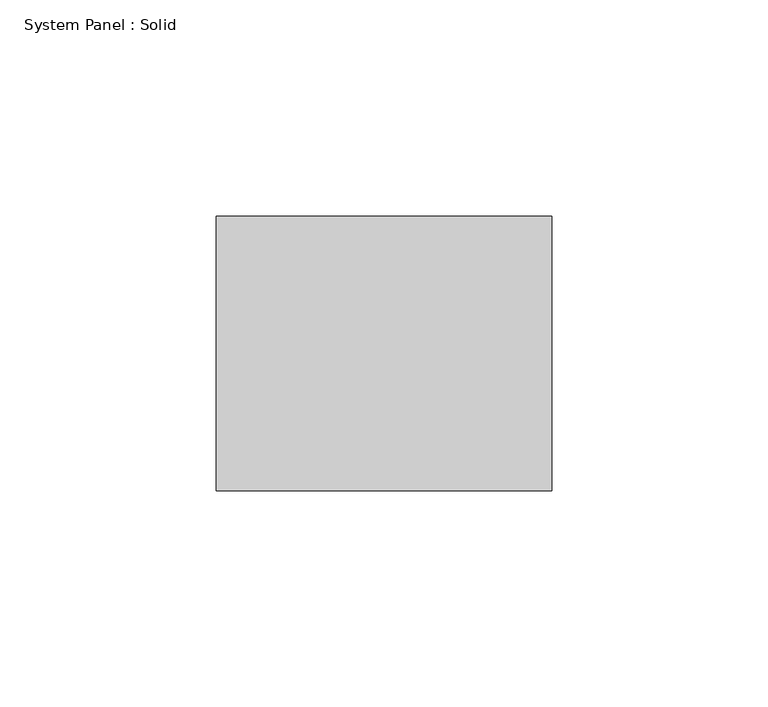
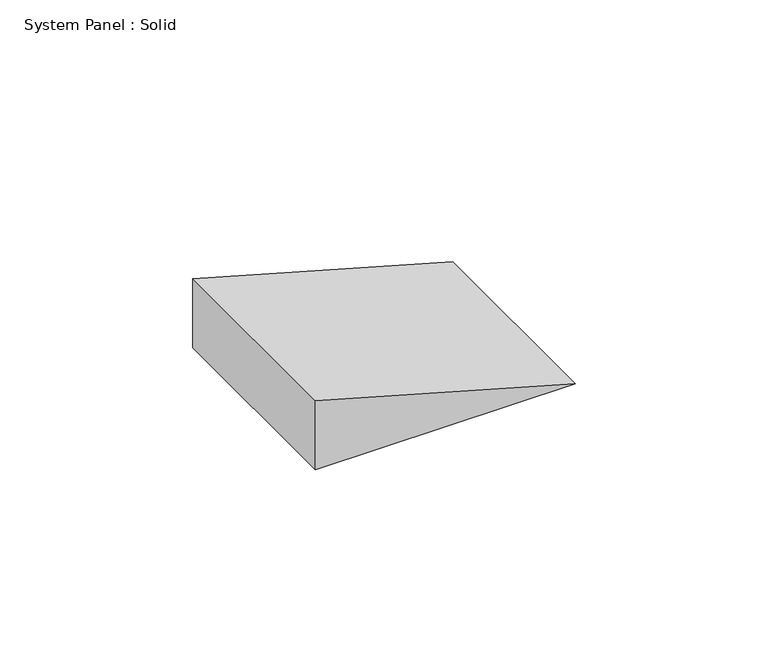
"""IFC4 building model written with IfcOpenShell, lengths in millimetres: plate geometry, System Panel : Solid."""

import ifcopenshell
import ifcopenshell.guid

model = None  # the IFC model being written
_history = None  # IfcOwnerHistory: only IFC2X3 demands one
_inside = {}  # id of a spatial element -> (the spatial element, [elements in it])
_under = {}  # id of a project, library or spatial element -> (it, [spatial elements below it])
_declared = {}  # id of a project -> (the project, [libraries it declares])
_typed = {}  # id of a type object -> (the type object, [elements of that type])
_made_of = {}  # id of a material, layer set ... -> (it, [elements and type objects made of it])


def new_model(schema):
    """Start an empty IFC model of exactly this schema.

    Asked for "IFC4X3", IfcOpenShell would pick the latest addendum, in which some entities
    have other attributes; the version numbers below select the first issue.
    IFC2X3 requires an IfcOwnerHistory on every rooted entity: one is made here for all.
    """
    global model, _history
    if schema == "IFC4X3":
        model = ifcopenshell.file(schema_version=(4, 3, 0, 0))
    else:
        model = ifcopenshell.file(schema=schema)
    _inside.clear()
    _under.clear()
    _declared.clear()
    _typed.clear()
    _made_of.clear()
    _history = None
    if model.schema == "IFC2X3":
        org = make("IfcOrganization", Name="unknown")
        user = make(
            "IfcPersonAndOrganization",
            ThePerson=make("IfcPerson", FamilyName="unknown"),
            TheOrganization=org,
        )
        app = make(
            "IfcApplication",
            ApplicationDeveloper=org,
            Version="unknown",
            ApplicationFullName="unknown",
            ApplicationIdentifier="unknown",
        )
        _history = make(
            "IfcOwnerHistory",
            OwningUser=user,
            OwningApplication=app,
            ChangeAction="ADDED",
            CreationDate=0,
        )
    return model


def make(cls, **values):
    """One entity of the class cls with the attributes given. An attribute that is None is left unset."""
    return model.create_entity(
        cls, **{name: value for name, value in values.items() if value is not None}
    )


def rooted(cls, **values):
    """An entity with a GlobalId (a new one), such as an element, a storey or a relation."""
    return make(cls, GlobalId=ifcopenshell.guid.new(), OwnerHistory=_history, **values)


def si_unit(unit_type, name, prefix=None):
    """IfcSIUnit, for example si_unit("LENGTHUNIT", "METRE", prefix="MILLI")."""
    return make("IfcSIUnit", UnitType=unit_type, Prefix=prefix, Name=name)


def assignment(units):
    """IfcUnitAssignment: the units of a project."""
    return None if units is None else make("IfcUnitAssignment", Units=units)


def point(xyz):
    """IfcCartesianPoint."""
    return None if xyz is None else make("IfcCartesianPoint", Coordinates=xyz)


def direction(xyz):
    """IfcDirection."""
    return None if xyz is None else make("IfcDirection", DirectionRatios=xyz)


def frame(location, z_axis=None, x_axis=None):
    """IfcAxis2Placement3D, a coordinate frame: its origin and axes. An axis left out is left unset."""
    return make(
        "IfcAxis2Placement3D",
        Location=point(location),
        Axis=direction(z_axis),
        RefDirection=direction(x_axis),
    )


def origin():
    """The frame at (0, 0, 0) with its axes left unset."""
    return frame((0.0, 0.0, 0.0))


def place(relative_to, where):
    """IfcLocalPlacement: puts the frame where relative to a parent placement (None: the world)."""
    return make(
        "IfcLocalPlacement", PlacementRelTo=relative_to, RelativePlacement=where
    )


def context(
    kind, dimensions, precision=None, world=None, true_north=None, identifier=None
):
    """IfcGeometricRepresentationContext, for example the 3D "Model" context."""
    return make(
        "IfcGeometricRepresentationContext",
        ContextIdentifier=identifier,
        ContextType=kind,
        CoordinateSpaceDimension=dimensions,
        Precision=precision,
        WorldCoordinateSystem=world,
        TrueNorth=true_north,
    )


def project(units=None, contexts=None):
    """IfcProject with its units and contexts."""
    return rooted(
        "IfcProject",
        Name="project",
        RepresentationContexts=contexts,
        UnitsInContext=assignment(units),
    )


def spatial(cls, under=None, at=None, **own):
    """A site, building, storey or space (cls), placed at a placement, below another one or the project."""
    s = rooted(cls, ObjectPlacement=at, **own)
    if under is not None:
        _under.setdefault(under.id(), (under, []))[1].append(s)
    return s


def polyline(points):
    """IfcPolyline through the points."""
    return make("IfcPolyline", Points=[point(p) for p in points])


def outline(outer, holes=None, kind="AREA"):
    """IfcArbitraryClosedProfileDef: a profile drawn as a closed curve; with holes, ...WithVoids."""
    if holes is None:
        return make("IfcArbitraryClosedProfileDef", ProfileType=kind, OuterCurve=outer)
    return make(
        "IfcArbitraryProfileDefWithVoids",
        ProfileType=kind,
        OuterCurve=outer,
        InnerCurves=holes,
    )


def extrude(swept, where, along, depth):
    """IfcExtrudedAreaSolid: the profile swept, set in the frame where, extruded along a direction by depth."""
    return make(
        "IfcExtrudedAreaSolid",
        SweptArea=swept,
        Position=where,
        ExtrudedDirection=direction(along),
        Depth=depth,
    )


def shape(context_of_items, identifier, shape_type, items):
    """IfcShapeRepresentation: the items that make up one representation, for example the "Body"."""
    return make(
        "IfcShapeRepresentation",
        ContextOfItems=context_of_items,
        RepresentationIdentifier=identifier,
        RepresentationType=shape_type,
        Items=items,
    )


def source(mapping_origin, context_of_items, identifier, shape_type, items):
    """IfcRepresentationMap: a shape defined once, which mapped items show again and again."""
    return make(
        "IfcRepresentationMap",
        MappingOrigin=mapping_origin,
        MappedRepresentation=shape(context_of_items, identifier, shape_type, items),
    )


def transform(
    local_origin,
    x_axis=None,
    y_axis=None,
    z_axis=None,
    scale=None,
    scale2=None,
    scale3=None,
    uniform=True,
):
    """IfcCartesianTransformationOperator3D, or its non-uniform kind. x_axis, y_axis, z_axis: its Axis1, 2, 3."""
    if uniform:
        return make(
            "IfcCartesianTransformationOperator3D",
            Axis1=direction(x_axis),
            Axis2=direction(y_axis),
            LocalOrigin=point(local_origin),
            Scale=scale,
            Axis3=direction(z_axis),
        )
    return make(
        "IfcCartesianTransformationOperator3DnonUniform",
        Axis1=direction(x_axis),
        Axis2=direction(y_axis),
        LocalOrigin=point(local_origin),
        Scale=scale,
        Axis3=direction(z_axis),
        Scale2=scale2,
        Scale3=scale3,
    )


def mapped(mapping_source, mapping_target):
    """IfcMappedItem: shows the shape of a source again, moved by a transform."""
    return make(
        "IfcMappedItem", MappingSource=mapping_source, MappingTarget=mapping_target
    )


def made_of(thing, what):
    """Note that an element or type object is made of a material, layer set ...; save() writes the relation."""
    if what is not None:
        _made_of.setdefault(what.id(), (what, []))[1].append(thing)
    return thing


def element(
    cls,
    number,
    at=None,
    inside=None,
    cuts=None,
    type_object=None,
    material=None,
    context=None,
    identifier="Body",
    shape_type=None,
    held_by="IfcProductDefinitionShape",
    body=None,
    shapes=None,
    **own,
):
    """One element of the class cls, such as IfcWall. Its Tag is "e" and its number.

    at: its placement. inside: the storey or other place that contains it. cuts: it is an
    opening in that element (IfcRelVoidsElement). A single representation is given by context,
    identifier, shape_type and body (its items); several are given by shapes. held_by: the class
    of the entity that holds the representations. save() writes the other relations.
    """
    e = rooted(cls, Tag="e%d" % number, ObjectPlacement=at, **own)
    if body is not None:
        shapes = [shape(context, identifier, shape_type, body)]
    if shapes is not None:
        e.Representation = make(held_by, Representations=shapes)
    if inside is not None:
        _inside.setdefault(inside.id(), (inside, []))[1].append(e)
    if cuts is not None:
        rooted(
            "IfcRelVoidsElement", RelatingBuildingElement=cuts, RelatedOpeningElement=e
        )
    if type_object is not None:
        _typed.setdefault(type_object.id(), (type_object, []))[1].append(e)
    return made_of(e, material)


def aggregate(whole, parts):
    """IfcRelAggregates: a whole, such as a stair, and the parts it consists of."""
    return rooted("IfcRelAggregates", RelatingObject=whole, RelatedObjects=parts)


def save(model, path):
    """Write the relations noted so far, then the file.

    IfcRelAggregates (storeys below a building ...), IfcRelContainedInSpatialStructure (elements
    in a storey), IfcRelDefinesByType, IfcRelAssociatesMaterial and IfcRelDeclares: one each for
    every whole, place, type object, material and project.
    """
    for whole, parts in _under.values():
        aggregate(whole, parts)
    for where, things in _inside.values():
        rooted(
            "IfcRelContainedInSpatialStructure",
            RelatedElements=things,
            RelatingStructure=where,
        )
    for kind, things in _typed.values():
        rooted("IfcRelDefinesByType", RelatedObjects=things, RelatingType=kind)
    for what, things in _made_of.values():
        rooted("IfcRelAssociatesMaterial", RelatedObjects=things, RelatingMaterial=what)
    for by, libraries in _declared.values():
        rooted("IfcRelDeclares", RelatingContext=by, RelatedDefinitions=libraries)
    model.write(path)


def system_panel_solid_5f5f2803(model_context):
    return source(origin(), model_context, "Body", "SweptSolid", [
        extrude(outline(polyline([(0.0, -38.8478813), (0.0, 38.8478813), (21.8302634, -38.8478813), (0.0, -38.8478813)])), frame((0.0, -19.05, 0.0), z_axis=(0.0, 1.0, 0.0), x_axis=(0.0, 0.0, 1.0)), (0.0, 0.0, 1.0), 63.5),
    ])


if __name__ == "__main__":
    model = new_model("IFC4")
    model_context = context("Model", 3, world=origin())
    ifc_project = project(units=[si_unit("LENGTHUNIT", "METRE", prefix="MILLI")], contexts=[model_context])
    site = spatial("IfcSite", under=ifc_project)
    building = spatial("IfcBuilding", under=site)
    placement = place(None, origin())
    system_panel_solid_shape = system_panel_solid_5f5f2803(model_context)
    element("IfcPlate", 1, ObjectType="System Panel : Solid", at=placement, inside=building, context=model_context, shape_type="MappedRepresentation", body=[
        mapped(system_panel_solid_shape, transform((0.0, 0.0, 0.0), x_axis=(1.0, 0.0, 0.0), y_axis=(0.0, 1.0, 0.0), z_axis=(0.0, 0.0, 1.0))),
    ])
    save(model, "model.ifc")
